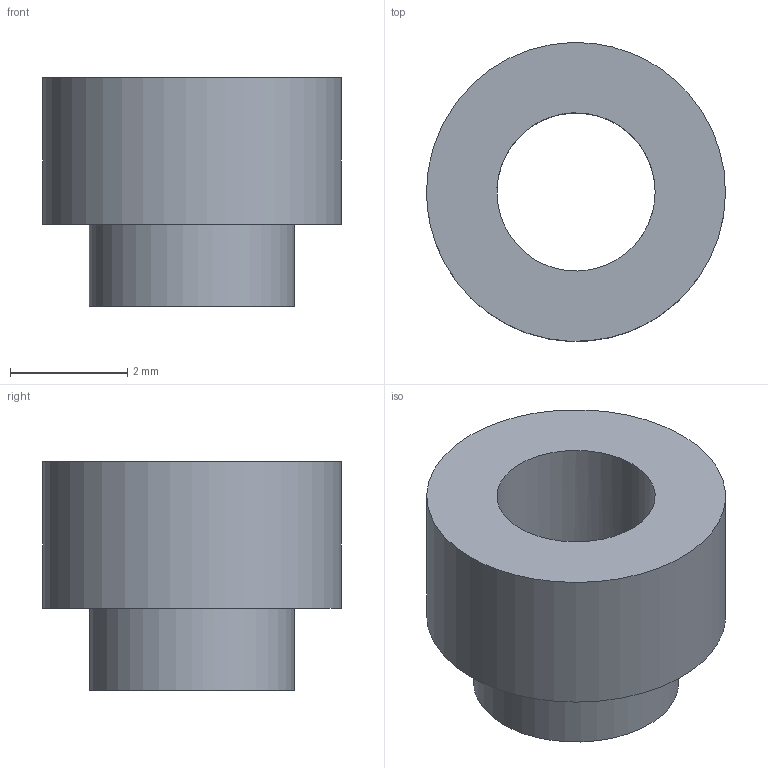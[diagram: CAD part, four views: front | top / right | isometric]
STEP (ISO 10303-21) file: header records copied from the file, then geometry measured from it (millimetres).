
FILE_DESCRIPTION(('FreeCAD Model'),'2;1');
FILE_NAME('Open CASCADE Shape Model','2026-03-20T17:23:07',('Author'),( ''),'Open CASCADE STEP processor 7.8','FreeCAD','Unknown');
FILE_SCHEMA(('AP242_MANAGED_MODEL_BASED_3D_ENGINEERING_MIM_LF. {1 0 10303 442 1 1 4 }'));
Length unit declared in the file: millimetre
Products named in the file (1): 1_transformed
Bounding box: 5.1 x 5.1 x 3.9 mm (x, y, z)
Volume: 42.6 mm3; surface area: 118.2 mm2
Topology: 1 solids, 1 shells, 6 faces, 10 edges, 7 vertices
Faces by surface type: bspline 6
Entity records: 209 total; most frequent: CARTESIAN_POINT 113, ORIENTED_EDGE 20, EDGE_CURVE 10, FACE_BOUND 9, EDGE_LOOP 9, VERTEX_POINT 7, ADVANCED_FACE 6, B_SPLINE_SURFACE_WITH_KNOTS 3
